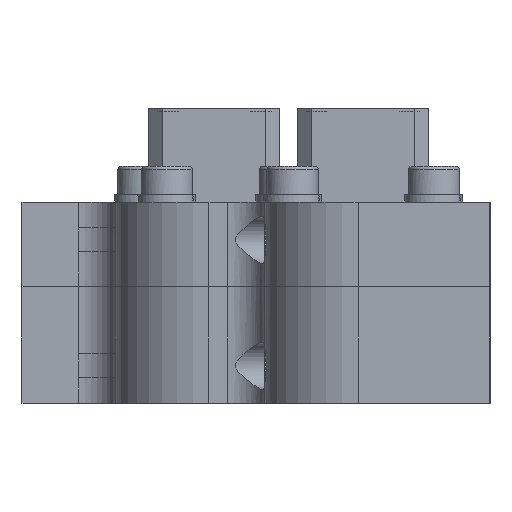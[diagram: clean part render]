
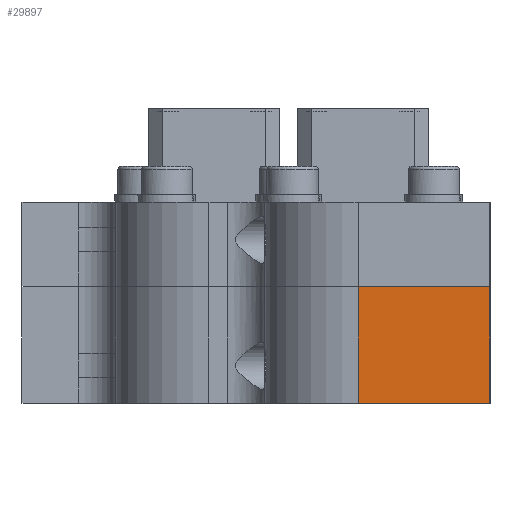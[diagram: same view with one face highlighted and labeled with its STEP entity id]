
A CAD part, left-side view. The second image highlights one B-rep face of the part: STEP entity #29897.
In plain terms, the highlighted planar face has unit normal (-1, 0, 0).
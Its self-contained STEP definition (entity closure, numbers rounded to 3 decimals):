
#891=LINE('',#39775,#2787);
#904=LINE('',#40015,#2800);
#920=LINE('',#40056,#2816);
#921=LINE('',#40058,#2817);
#2787=VECTOR('',#33516,1000.);
#2800=VECTOR('',#33627,1000.);
#2816=VECTOR('',#33663,1000.);
#2817=VECTOR('',#33664,1000.);
#4837=ORIENTED_EDGE('',*,*,#10707,.T.);
#4838=ORIENTED_EDGE('',*,*,#10636,.F.);
#4839=ORIENTED_EDGE('',*,*,#10684,.T.);
#4840=ORIENTED_EDGE('',*,*,#10708,.T.);
#10636=EDGE_CURVE('',#13581,#13582,#891,.T.);
#10684=EDGE_CURVE('',#13581,#13622,#904,.T.);
#10707=EDGE_CURVE('',#13637,#13582,#920,.T.);
#10708=EDGE_CURVE('',#13622,#13637,#921,.T.);
#13581=VERTEX_POINT('',#39774);
#13582=VERTEX_POINT('',#39776);
#13622=VERTEX_POINT('',#40016);
#13637=VERTEX_POINT('',#40057);
#16481=EDGE_LOOP('',(#4837,#4838,#4839,#4840));
#18251=FACE_BOUND('',#16481,.T.);
#19972=PLANE('',#31319);
#29897=ADVANCED_FACE('',(#18251),#19972,.T.);
#31319=AXIS2_PLACEMENT_3D('',#40055,#33661,#33662);
#33516=DIRECTION('',(0.,0.,1.));
#33627=DIRECTION('',(0.,-1.,0.));
#33661=DIRECTION('',(-1.,0.,0.));
#33662=DIRECTION('',(0.,-1.,0.));
#33663=DIRECTION('',(0.,1.,0.));
#33664=DIRECTION('',(0.,0.,1.));
#39774=CARTESIAN_POINT('',(-129.7,0.556,-8.994));
#39775=CARTESIAN_POINT('',(-129.7,0.556,-189.375));
#39776=CARTESIAN_POINT('',(-129.7,0.556,3.506));
#40015=CARTESIAN_POINT('',(-129.7,10.556,-8.994));
#40016=CARTESIAN_POINT('',(-129.7,-13.556,-8.994));
#40055=CARTESIAN_POINT('',(-129.7,10.556,-189.375));
#40056=CARTESIAN_POINT('',(-129.7,22.498,3.506));
#40057=CARTESIAN_POINT('',(-129.7,-13.556,3.506));
#40058=CARTESIAN_POINT('',(-129.7,-13.556,-189.375));
